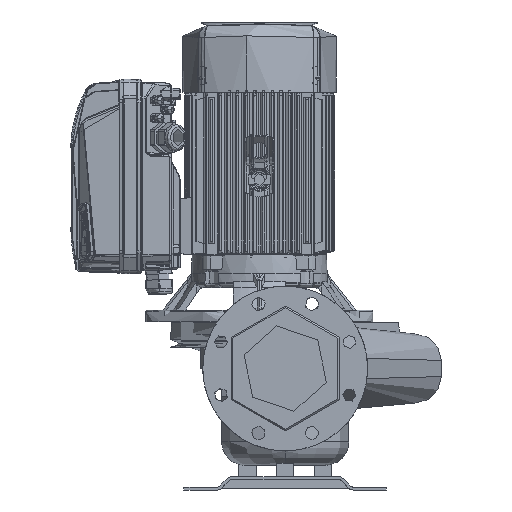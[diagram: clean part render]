
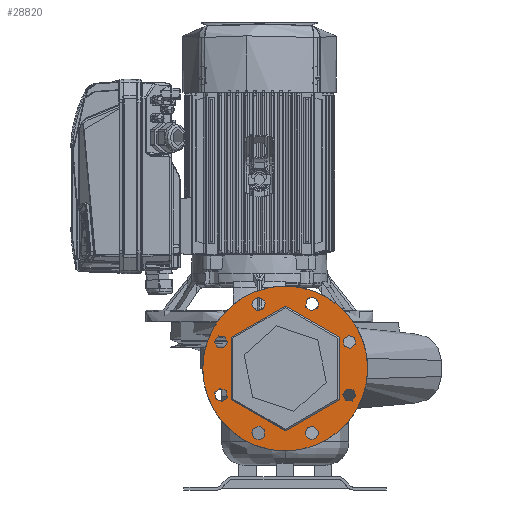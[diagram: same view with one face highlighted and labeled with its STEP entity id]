
A CAD part, front view. The second image highlights one B-rep face of the part: STEP entity #28820.
In plain terms, the highlighted planar face has unit normal (0, -1, 0) as drawn and (0, 1, 0) by its records, which use the part's own axes.
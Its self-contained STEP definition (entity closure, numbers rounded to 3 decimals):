
#28820=ADVANCED_FACE('',(#58515,#58516,#58517,#58518,#58519,#58520,#58521,#58522,#58523,#58524),#58525,.T.);
#28848=EDGE_CURVE('',#58568,#58569,#58570,.T.);
#28852=EDGE_CURVE('',#58576,#58577,#58578,.T.);
#28856=EDGE_CURVE('',#58584,#58585,#58586,.T.);
#28860=EDGE_CURVE('',#58592,#58593,#58594,.T.);
#28864=EDGE_CURVE('',#58600,#58601,#58602,.T.);
#28868=EDGE_CURVE('',#58608,#58609,#58610,.T.);
#28872=EDGE_CURVE('',#58616,#58617,#58618,.T.);
#28876=EDGE_CURVE('',#58624,#58625,#58626,.T.);
#28880=EDGE_CURVE('',#58632,#58633,#58634,.T.);
#28882=EDGE_CURVE('',#58636,#58637,#58638,.T.);
#29054=EDGE_CURVE('',#58637,#58636,#58896,.T.);
#29072=EDGE_CURVE('',#58633,#58632,#58914,.T.);
#29074=EDGE_CURVE('',#58625,#58624,#58916,.T.);
#29076=EDGE_CURVE('',#58617,#58616,#58918,.T.);
#29078=EDGE_CURVE('',#58609,#58608,#58920,.T.);
#29080=EDGE_CURVE('',#58601,#58600,#58922,.T.);
#29082=EDGE_CURVE('',#58593,#58592,#58924,.T.);
#29084=EDGE_CURVE('',#58585,#58584,#58926,.T.);
#29086=EDGE_CURVE('',#58577,#58576,#58928,.T.);
#29088=EDGE_CURVE('',#58569,#58568,#58930,.T.);
#58515=FACE_OUTER_BOUND('',#331509,.T.);
#58516=FACE_BOUND('',#331510,.T.);
#58517=FACE_BOUND('',#331511,.T.);
#58518=FACE_BOUND('',#331512,.T.);
#58519=FACE_BOUND('',#331513,.T.);
#58520=FACE_BOUND('',#331514,.T.);
#58521=FACE_BOUND('',#331515,.T.);
#58522=FACE_BOUND('',#331516,.T.);
#58523=FACE_BOUND('',#331517,.T.);
#58524=FACE_BOUND('',#331518,.T.);
#58525=PLANE('',#331519);
#58568=VERTEX_POINT('',#332583);
#58569=VERTEX_POINT('',#332584);
#58570=CIRCLE('',#332585,108.0);
#58576=VERTEX_POINT('',#332593);
#58577=VERTEX_POINT('',#332594);
#58578=CIRCLE('',#332595,11.5);
#58584=VERTEX_POINT('',#332603);
#58585=VERTEX_POINT('',#332604);
#58586=CIRCLE('',#332605,11.5);
#58592=VERTEX_POINT('',#332613);
#58593=VERTEX_POINT('',#332614);
#58594=CIRCLE('',#332615,11.5);
#58600=VERTEX_POINT('',#332623);
#58601=VERTEX_POINT('',#332624);
#58602=CIRCLE('',#332625,11.5);
#58608=VERTEX_POINT('',#332633);
#58609=VERTEX_POINT('',#332634);
#58610=CIRCLE('',#332635,11.5);
#58616=VERTEX_POINT('',#332643);
#58617=VERTEX_POINT('',#332644);
#58618=CIRCLE('',#332645,11.5);
#58624=VERTEX_POINT('',#332653);
#58625=VERTEX_POINT('',#332654);
#58626=CIRCLE('',#332655,11.5);
#58632=VERTEX_POINT('',#332663);
#58633=VERTEX_POINT('',#332664);
#58634=CIRCLE('',#332665,11.5);
#58636=VERTEX_POINT('',#332668);
#58637=VERTEX_POINT('',#332669);
#58638=CIRCLE('',#332670,142.5);
#58896=CIRCLE('',#333101,142.5);
#58914=CIRCLE('',#333128,11.5);
#58916=CIRCLE('',#333131,11.5);
#58918=CIRCLE('',#333134,11.5);
#58920=CIRCLE('',#333137,11.5);
#58922=CIRCLE('',#333140,11.5);
#58924=CIRCLE('',#333143,11.5);
#58926=CIRCLE('',#333146,11.5);
#58928=CIRCLE('',#333149,11.5);
#58930=CIRCLE('',#333152,108.0);
#331509=EDGE_LOOP('',(#411654,#411655));
#331510=EDGE_LOOP('',(#411656,#411657));
#331511=EDGE_LOOP('',(#411658,#411659));
#331512=EDGE_LOOP('',(#411660,#411661));
#331513=EDGE_LOOP('',(#411662,#411663));
#331514=EDGE_LOOP('',(#411664,#411665));
#331515=EDGE_LOOP('',(#411666,#411667));
#331516=EDGE_LOOP('',(#411668,#411669));
#331517=EDGE_LOOP('',(#411670,#411671));
#331518=EDGE_LOOP('',(#411672,#411673));
#331519=AXIS2_PLACEMENT_3D('',#411674,#411675,#411676);
#332583=CARTESIAN_POINT('',(0.,377.,-108.0));
#332584=CARTESIAN_POINT('',(0.,377.0,108.0));
#332585=AXIS2_PLACEMENT_3D('',#411778,#411779,#411780);
#332593=CARTESIAN_POINT('',(-117.353,377.0,-36.426));
#332594=CARTESIAN_POINT('',(-104.378,377.0,-55.418));
#332595=AXIS2_PLACEMENT_3D('',#411784,#411785,#411786);
#332603=CARTESIAN_POINT('',(-108.738,377.,57.224));
#332604=CARTESIAN_POINT('',(-112.993,377.,34.62));
#332605=AXIS2_PLACEMENT_3D('',#411790,#411791,#411792);
#332613=CARTESIAN_POINT('',(-36.426,377.,117.353));
#332614=CARTESIAN_POINT('',(-55.418,377.,104.378));
#332615=AXIS2_PLACEMENT_3D('',#411796,#411797,#411798);
#332623=CARTESIAN_POINT('',(57.224,377.,108.738));
#332624=CARTESIAN_POINT('',(34.62,377.,112.993));
#332625=AXIS2_PLACEMENT_3D('',#411802,#411803,#411804);
#332633=CARTESIAN_POINT('',(117.353,377.,36.426));
#332634=CARTESIAN_POINT('',(104.378,377.,55.418));
#332635=AXIS2_PLACEMENT_3D('',#411808,#411809,#411810);
#332643=CARTESIAN_POINT('',(108.738,377.,-57.224));
#332644=CARTESIAN_POINT('',(112.993,377.,-34.62));
#332645=AXIS2_PLACEMENT_3D('',#411814,#411815,#411816);
#332653=CARTESIAN_POINT('',(36.426,377.,-117.353));
#332654=CARTESIAN_POINT('',(55.418,377.0,-104.378));
#332655=AXIS2_PLACEMENT_3D('',#411820,#411821,#411822);
#332663=CARTESIAN_POINT('',(-57.224,377.,-108.738));
#332664=CARTESIAN_POINT('',(-34.62,377.,-112.993));
#332665=AXIS2_PLACEMENT_3D('',#411826,#411827,#411828);
#332668=CARTESIAN_POINT('',(0.,377.0,-142.5));
#332669=CARTESIAN_POINT('',(0.,377.,142.5));
#332670=AXIS2_PLACEMENT_3D('',#411829,#411830,#411831);
#333101=AXIS2_PLACEMENT_3D('',#412057,#412058,#412059);
#333128=AXIS2_PLACEMENT_3D('',#412084,#412085,#412086);
#333131=AXIS2_PLACEMENT_3D('',#412087,#412088,#412089);
#333134=AXIS2_PLACEMENT_3D('',#412090,#412091,#412092);
#333137=AXIS2_PLACEMENT_3D('',#412093,#412094,#412095);
#333140=AXIS2_PLACEMENT_3D('',#412096,#412097,#412098);
#333143=AXIS2_PLACEMENT_3D('',#412099,#412100,#412101);
#333146=AXIS2_PLACEMENT_3D('',#412102,#412103,#412104);
#333149=AXIS2_PLACEMENT_3D('',#412105,#412106,#412107);
#333152=AXIS2_PLACEMENT_3D('',#412108,#412109,#412110);
#411654=ORIENTED_EDGE('',*,*,#29054,.F.);
#411655=ORIENTED_EDGE('',*,*,#28882,.F.);
#411656=ORIENTED_EDGE('',*,*,#28848,.T.);
#411657=ORIENTED_EDGE('',*,*,#29088,.T.);
#411658=ORIENTED_EDGE('',*,*,#28852,.T.);
#411659=ORIENTED_EDGE('',*,*,#29086,.T.);
#411660=ORIENTED_EDGE('',*,*,#28856,.T.);
#411661=ORIENTED_EDGE('',*,*,#29084,.T.);
#411662=ORIENTED_EDGE('',*,*,#28860,.T.);
#411663=ORIENTED_EDGE('',*,*,#29082,.T.);
#411664=ORIENTED_EDGE('',*,*,#28864,.T.);
#411665=ORIENTED_EDGE('',*,*,#29080,.T.);
#411666=ORIENTED_EDGE('',*,*,#28868,.T.);
#411667=ORIENTED_EDGE('',*,*,#29078,.T.);
#411668=ORIENTED_EDGE('',*,*,#28872,.T.);
#411669=ORIENTED_EDGE('',*,*,#29076,.T.);
#411670=ORIENTED_EDGE('',*,*,#28876,.T.);
#411671=ORIENTED_EDGE('',*,*,#29074,.T.);
#411672=ORIENTED_EDGE('',*,*,#28880,.T.);
#411673=ORIENTED_EDGE('',*,*,#29072,.T.);
#411674=CARTESIAN_POINT('',(0.,377.,-125.25));
#411675=DIRECTION('',(0.0,1.0,0.0));
#411676=DIRECTION('',(0.0,0.0,1.0));
#411778=CARTESIAN_POINT('',(0.,377.0,0.));
#411779=DIRECTION('',(0.0,-1.0,0.0));
#411780=DIRECTION('',(0.,0.0,-1.0));
#411784=CARTESIAN_POINT('',(-110.866,377.0,-45.922));
#411785=DIRECTION('',(0.0,-1.0,0.0));
#411786=DIRECTION('',(-0.564,0.0,0.826));
#411790=CARTESIAN_POINT('',(-110.866,377.,45.922));
#411791=DIRECTION('',(0.0,-1.0,0.0));
#411792=DIRECTION('',(0.185,0.0,0.983));
#411796=CARTESIAN_POINT('',(-45.922,377.,110.866));
#411797=DIRECTION('',(0.0,-1.0,0.0));
#411798=DIRECTION('',(0.826,0.0,0.564));
#411802=CARTESIAN_POINT('',(45.922,377.,110.866));
#411803=DIRECTION('',(0.0,-1.0,0.0));
#411804=DIRECTION('',(0.983,0.0,-0.185));
#411808=CARTESIAN_POINT('',(110.866,377.,45.922));
#411809=DIRECTION('',(0.0,-1.0,0.0));
#411810=DIRECTION('',(0.564,0.0,-0.826));
#411814=CARTESIAN_POINT('',(110.866,377.,-45.922));
#411815=DIRECTION('',(0.0,-1.0,-0.0));
#411816=DIRECTION('',(-0.185,0.0,-0.983));
#411820=CARTESIAN_POINT('',(45.922,377.0,-110.866));
#411821=DIRECTION('',(0.0,-1.0,-0.0));
#411822=DIRECTION('',(-0.826,0.0,-0.564));
#411826=CARTESIAN_POINT('',(-45.922,377.,-110.866));
#411827=DIRECTION('',(0.0,-1.0,0.0));
#411828=DIRECTION('',(-0.983,0.0,0.185));
#411829=CARTESIAN_POINT('',(0.,377.0,0.));
#411830=DIRECTION('',(0.0,-1.0,0.0));
#411831=DIRECTION('',(0.,0.0,-1.0));
#412057=CARTESIAN_POINT('',(0.,377.0,0.));
#412058=DIRECTION('',(0.0,-1.0,0.0));
#412059=DIRECTION('',(0.,0.0,-1.0));
#412084=CARTESIAN_POINT('',(-45.922,377.,-110.866));
#412085=DIRECTION('',(0.0,-1.0,0.0));
#412086=DIRECTION('',(-0.983,0.0,0.185));
#412087=CARTESIAN_POINT('',(45.922,377.0,-110.866));
#412088=DIRECTION('',(0.0,-1.0,-0.0));
#412089=DIRECTION('',(-0.826,0.0,-0.564));
#412090=CARTESIAN_POINT('',(110.866,377.,-45.922));
#412091=DIRECTION('',(0.0,-1.0,-0.0));
#412092=DIRECTION('',(-0.185,0.0,-0.983));
#412093=CARTESIAN_POINT('',(110.866,377.,45.922));
#412094=DIRECTION('',(0.0,-1.0,0.0));
#412095=DIRECTION('',(0.564,0.0,-0.826));
#412096=CARTESIAN_POINT('',(45.922,377.,110.866));
#412097=DIRECTION('',(0.0,-1.0,0.0));
#412098=DIRECTION('',(0.983,0.0,-0.185));
#412099=CARTESIAN_POINT('',(-45.922,377.,110.866));
#412100=DIRECTION('',(0.0,-1.0,0.0));
#412101=DIRECTION('',(0.826,0.0,0.564));
#412102=CARTESIAN_POINT('',(-110.866,377.,45.922));
#412103=DIRECTION('',(0.0,-1.0,0.0));
#412104=DIRECTION('',(0.185,0.0,0.983));
#412105=CARTESIAN_POINT('',(-110.866,377.0,-45.922));
#412106=DIRECTION('',(0.0,-1.0,0.0));
#412107=DIRECTION('',(-0.564,0.0,0.826));
#412108=CARTESIAN_POINT('',(0.,377.0,0.));
#412109=DIRECTION('',(0.0,-1.0,0.0));
#412110=DIRECTION('',(0.,0.0,-1.0));
